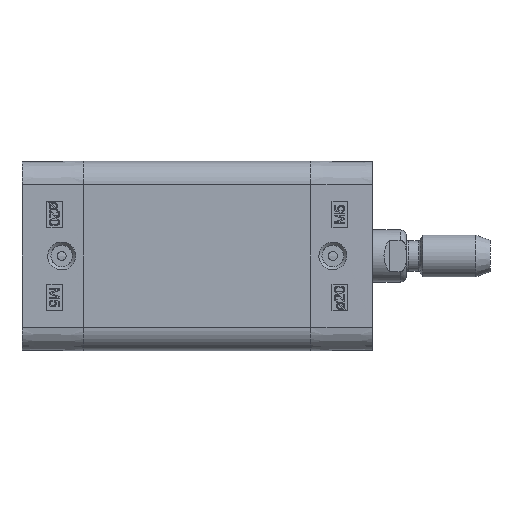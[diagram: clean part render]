
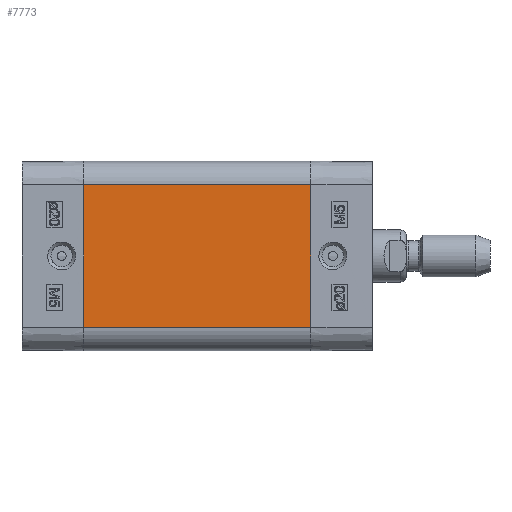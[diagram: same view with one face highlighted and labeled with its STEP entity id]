
A CAD part, left-side view. The second image highlights one B-rep face of the part: STEP entity #7773.
In plain terms, the highlighted planar face has unit normal (-1, 0, 0).
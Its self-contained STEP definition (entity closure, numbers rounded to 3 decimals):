
#6294=CARTESIAN_POINT('',(-18.15,-43.5,13.65));
#6295=VERTEX_POINT('',#6294);
#6302=CARTESIAN_POINT('',(-18.15,-43.5,-13.65));
#6303=VERTEX_POINT('',#6302);
#6304=CARTESIAN_POINT('',(-18.15,-43.5,-13.65));
#6305=DIRECTION('',(0.0,0.0,1.0));
#6306=VECTOR('',#6305,27.3);
#6307=LINE('',#6304,#6306);
#6308=EDGE_CURVE('',#6303,#6295,#6307,.T.);
#7731=CARTESIAN_POINT('',(-18.15,0.0,-13.65));
#7732=VERTEX_POINT('',#7731);
#7733=CARTESIAN_POINT('',(-18.15,0.0,-13.65));
#7734=DIRECTION('',(0.0,-1.0,0.0));
#7735=VECTOR('',#7734,43.5);
#7736=LINE('',#7733,#7735);
#7737=EDGE_CURVE('',#7732,#6303,#7736,.T.);
#7750=CARTESIAN_POINT('',(-18.15,0.0,-13.65));
#7751=DIRECTION('',(-1.0,0.0,0.0));
#7752=DIRECTION('',(0.0,0.0,1.0));
#7753=AXIS2_PLACEMENT_3D('',#7750,#7751,#7752);
#7754=PLANE('',#7753);
#7755=ORIENTED_EDGE('',*,*,#6308,.T.);
#7756=CARTESIAN_POINT('',(-18.15,0.0,13.65));
#7757=VERTEX_POINT('',#7756);
#7758=CARTESIAN_POINT('',(-18.15,0.0,13.65));
#7759=DIRECTION('',(0.0,-1.0,0.0));
#7760=VECTOR('',#7759,43.5);
#7761=LINE('',#7758,#7760);
#7762=EDGE_CURVE('',#7757,#6295,#7761,.T.);
#7763=ORIENTED_EDGE('',*,*,#7762,.F.);
#7764=CARTESIAN_POINT('',(-18.15,0.0,-13.65));
#7765=DIRECTION('',(0.0,0.0,1.0));
#7766=VECTOR('',#7765,27.3);
#7767=LINE('',#7764,#7766);
#7768=EDGE_CURVE('',#7732,#7757,#7767,.T.);
#7769=ORIENTED_EDGE('',*,*,#7768,.F.);
#7770=ORIENTED_EDGE('',*,*,#7737,.T.);
#7771=EDGE_LOOP('',(#7755,#7763,#7769,#7770));
#7772=FACE_OUTER_BOUND('',#7771,.T.);
#7773=ADVANCED_FACE('',(#7772),#7754,.T.);
